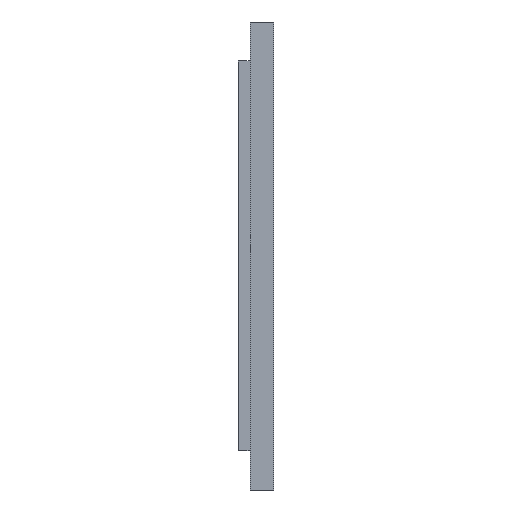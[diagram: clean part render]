
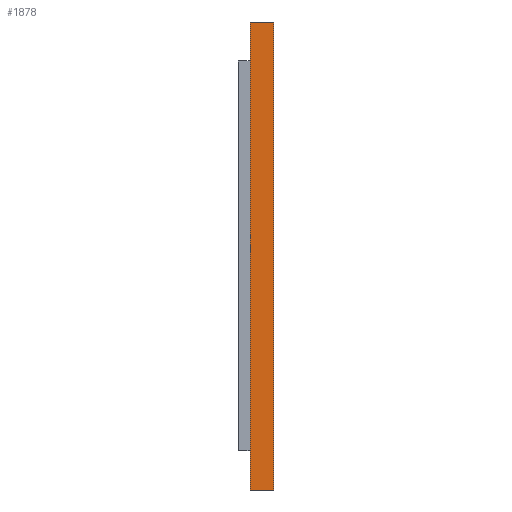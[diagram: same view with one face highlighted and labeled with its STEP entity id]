
A CAD part, left-side view. The second image highlights one B-rep face of the part: STEP entity #1878.
In plain terms, the highlighted planar face has unit normal (-1, 0, 0).
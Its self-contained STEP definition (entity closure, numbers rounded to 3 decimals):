
#57 = DIRECTION ( 'NONE',  ( 0., -1., 0. ) ) ;
#75 = EDGE_CURVE ( 'NONE', #745, #1934, #2313, .T. ) ;
#94 = CARTESIAN_POINT ( 'NONE',  ( 159.833, 252.697, 119.139 ) ) ;
#190 = FACE_OUTER_BOUND ( 'NONE', #1204, .T. ) ;
#202 = DIRECTION ( 'NONE',  ( 0., 0., -1. ) ) ;
#218 = VECTOR ( 'NONE', #57, 1000. ) ;
#224 = VECTOR ( 'NONE', #943, 1000. ) ;
#373 = CARTESIAN_POINT ( 'NONE',  ( 159.833, 261.697, 299.139 ) ) ;
#416 = DIRECTION ( 'NONE',  ( 1., 0., 0. ) ) ;
#427 = CARTESIAN_POINT ( 'NONE',  ( 159.833, 252.697, 299.139 ) ) ;
#450 = EDGE_CURVE ( 'NONE', #1032, #745, #3075, .T. ) ;
#653 = CARTESIAN_POINT ( 'NONE',  ( 159.833, 261.697, 299.139 ) ) ;
#745 = VERTEX_POINT ( 'NONE', #373 ) ;
#779 = VERTEX_POINT ( 'NONE', #94 ) ;
#823 = ORIENTED_EDGE ( 'NONE', *, *, #1281, .T. ) ;
#943 = DIRECTION ( 'NONE',  ( 0., 0., 1. ) ) ;
#958 = CARTESIAN_POINT ( 'NONE',  ( 159.833, 252.697, 299.139 ) ) ;
#1032 = VERTEX_POINT ( 'NONE', #3034 ) ;
#1136 = DIRECTION ( 'NONE',  ( 0., -1., 0. ) ) ;
#1204 = EDGE_LOOP ( 'NONE', ( #823, #1441, #3031, #1659 ) ) ;
#1214 = AXIS2_PLACEMENT_3D ( 'NONE', #653, #416, #202 ) ;
#1227 = CARTESIAN_POINT ( 'NONE',  ( 159.833, 261.697, 119.139 ) ) ;
#1281 = EDGE_CURVE ( 'NONE', #779, #1934, #2584, .T. ) ;
#1441 = ORIENTED_EDGE ( 'NONE', *, *, #75, .F. ) ;
#1659 = ORIENTED_EDGE ( 'NONE', *, *, #2586, .T. ) ;
#1878 = ADVANCED_FACE ( 'NONE', ( #190 ), #2337, .F. ) ;
#1934 = VERTEX_POINT ( 'NONE', #958 ) ;
#2032 = CARTESIAN_POINT ( 'NONE',  ( 159.833, 261.697, 299.139 ) ) ;
#2147 = LINE ( 'NONE', #1227, #218 ) ;
#2153 = DIRECTION ( 'NONE',  ( 0., 0., 1. ) ) ;
#2313 = LINE ( 'NONE', #2032, #2829 ) ;
#2337 = PLANE ( 'NONE',  #1214 ) ;
#2583 = CARTESIAN_POINT ( 'NONE',  ( 159.833, 261.697, 299.139 ) ) ;
#2584 = LINE ( 'NONE', #427, #2679 ) ;
#2586 = EDGE_CURVE ( 'NONE', #1032, #779, #2147, .T. ) ;
#2679 = VECTOR ( 'NONE', #2153, 1000. ) ;
#2829 = VECTOR ( 'NONE', #1136, 1000. ) ;
#3031 = ORIENTED_EDGE ( 'NONE', *, *, #450, .F. ) ;
#3034 = CARTESIAN_POINT ( 'NONE',  ( 159.833, 261.697, 119.139 ) ) ;
#3075 = LINE ( 'NONE', #2583, #224 ) ;
